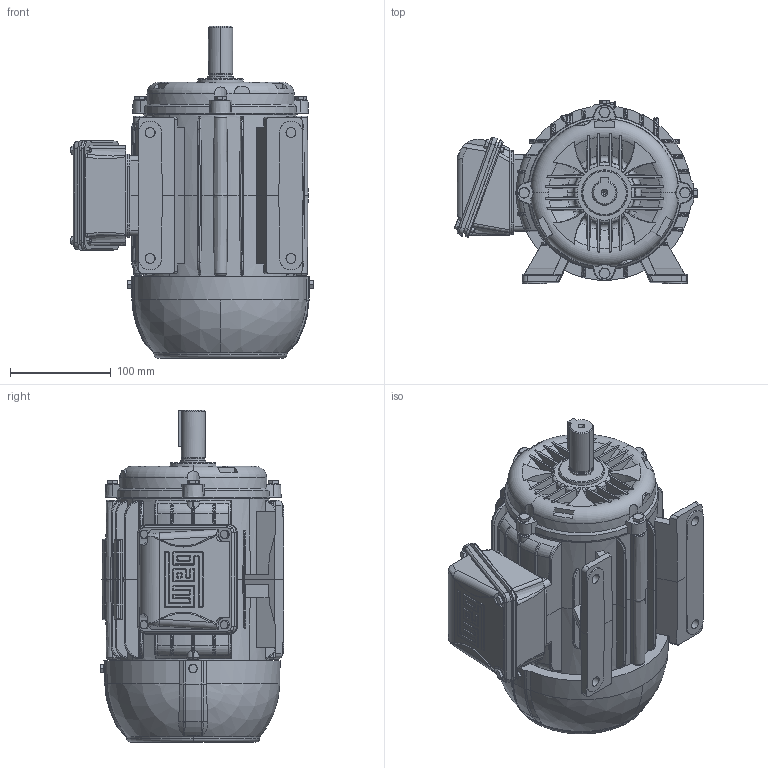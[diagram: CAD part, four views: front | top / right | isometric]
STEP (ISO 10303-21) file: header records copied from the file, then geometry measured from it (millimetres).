
FILE_DESCRIPTION (( 'STEP AP203' ), '1' );
FILE_NAME ('e5d9.STEP', '2023-04-25T17:29:08', ( 'WEG' ), ( 'WEG' ), 'SwSTEP 2.0', 'SolidWorks 2018', '' );
FILE_SCHEMA (( 'CONFIG_CONTROL_DESIGN' ));
Length unit declared in the file: millimetre
Products named in the file (7): W22_DE_ENDSHIELD_90_STANDARD; REFERENCE_SOLID; e5d9; W22_DE_SHAFT_90; W22_TERMINAL_BOX_90; W22_FRAME_90L_WITH_FOOT_LEFT; W22_FAN_COVER_90
Assembly tree (6 placements, depth 2):
  e5d9
    W22_FRAME_90L_WITH_FOOT_LEFT
    W22_DE_ENDSHIELD_90_STANDARD
    W22_FAN_COVER_90
    W22_DE_SHAFT_90
    W22_TERMINAL_BOX_90
    REFERENCE_SOLID
Bounding box: 241.22 x 182.24 x 330 mm (x, y, z)
Volume: 6159904.8 mm3; surface area: 451213.5 mm2
Topology: 18 solids, 25 shells, 2616 faces, 6642 edges, 4215 vertices
Faces by surface type: plane 1102, cylinder 803, bspline 365, cone 252, torus 82, sphere 12
Entity records: 94733 total; most frequent: CARTESIAN_POINT 34497, ORIENTED_EDGE 13264, DIRECTION 11429, EDGE_CURVE 6632, VERTEX_POINT 4215, AXIS2_PLACEMENT_3D 4194, LINE 3041, VECTOR 3041
